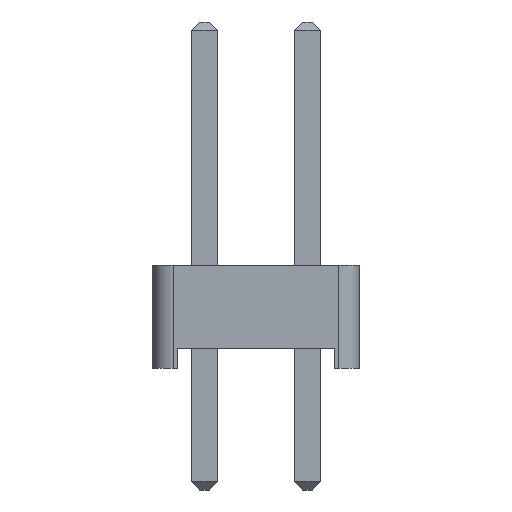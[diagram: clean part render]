
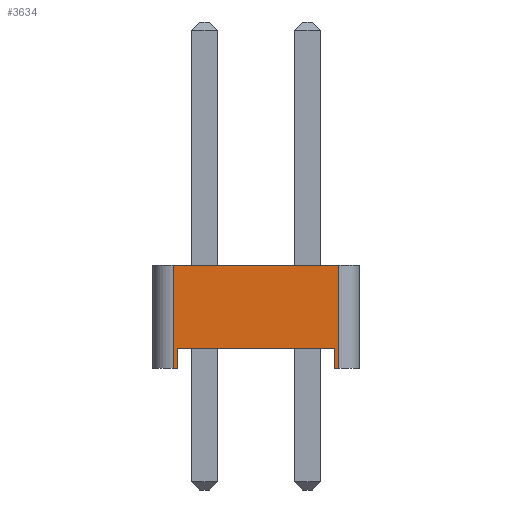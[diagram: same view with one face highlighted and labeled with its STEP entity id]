
A CAD part, left-side view. The second image highlights one B-rep face of the part: STEP entity #3634.
In plain terms, the highlighted planar face has unit normal (-1, 0, 0).
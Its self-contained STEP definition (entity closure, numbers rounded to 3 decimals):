
#3374 = VERTEX_POINT('',#3375);
#3375 = CARTESIAN_POINT('',(-1.27,2.04,0.));
#3383 = PLANE('',#3384);
#3384 = AXIS2_PLACEMENT_3D('',#3385,#3386,#3387);
#3385 = CARTESIAN_POINT('',(0.,0.,0.));
#3386 = DIRECTION('',(-0.,-0.,-1.));
#3387 = DIRECTION('',(-1.,0.,0.));
#3399 = CYLINDRICAL_SURFACE('',#3400,0.5);
#3400 = AXIS2_PLACEMENT_3D('',#3401,#3402,#3403);
#3401 = CARTESIAN_POINT('',(-0.77,2.04,0.));
#3402 = DIRECTION('',(0.,0.,1.));
#3403 = DIRECTION('',(0.,1.,0.));
#3501 = VERTEX_POINT('',#3502);
#3502 = CARTESIAN_POINT('',(-1.27,1.94,0.));
#3516 = PLANE('',#3517);
#3517 = AXIS2_PLACEMENT_3D('',#3518,#3519,#3520);
#3518 = CARTESIAN_POINT('',(1.27,1.94,0.));
#3519 = DIRECTION('',(0.,-1.,0.));
#3520 = DIRECTION('',(-1.,0.,0.));
#3528 = EDGE_CURVE('',#3501,#3374,#3529,.T.);
#3529 = SURFACE_CURVE('',#3530,(#3534,#3541),.PCURVE_S1.);
#3530 = LINE('',#3531,#3532);
#3531 = CARTESIAN_POINT('',(-1.27,-2.54,0.));
#3532 = VECTOR('',#3533,1.);
#3533 = DIRECTION('',(0.,1.,0.));
#3534 = PCURVE('',#3383,#3535);
#3535 = DEFINITIONAL_REPRESENTATION('',(#3536),#3540);
#3536 = LINE('',#3537,#3538);
#3537 = CARTESIAN_POINT('',(1.27,-2.54));
#3538 = VECTOR('',#3539,1.);
#3539 = DIRECTION('',(0.,1.));
#3540 = ( GEOMETRIC_REPRESENTATION_CONTEXT(2) 
PARAMETRIC_REPRESENTATION_CONTEXT() REPRESENTATION_CONTEXT('2D SPACE',''
  ) );
#3541 = PCURVE('',#3542,#3547);
#3542 = PLANE('',#3543);
#3543 = AXIS2_PLACEMENT_3D('',#3544,#3545,#3546);
#3544 = CARTESIAN_POINT('',(-1.27,-2.54,0.));
#3545 = DIRECTION('',(-1.,0.,0.));
#3546 = DIRECTION('',(0.,1.,0.));
#3547 = DEFINITIONAL_REPRESENTATION('',(#3548),#3552);
#3548 = LINE('',#3549,#3550);
#3549 = CARTESIAN_POINT('',(0.,0.));
#3550 = VECTOR('',#3551,1.);
#3551 = DIRECTION('',(1.,0.));
#3552 = ( GEOMETRIC_REPRESENTATION_CONTEXT(2) 
PARAMETRIC_REPRESENTATION_CONTEXT() REPRESENTATION_CONTEXT('2D SPACE',''
  ) );
#3558 = EDGE_CURVE('',#3374,#3559,#3561,.T.);
#3559 = VERTEX_POINT('',#3560);
#3560 = CARTESIAN_POINT('',(-1.27,2.04,2.54));
#3561 = SURFACE_CURVE('',#3562,(#3566,#3573),.PCURVE_S1.);
#3562 = LINE('',#3563,#3564);
#3563 = CARTESIAN_POINT('',(-1.27,2.04,0.));
#3564 = VECTOR('',#3565,1.);
#3565 = DIRECTION('',(0.,0.,1.));
#3566 = PCURVE('',#3399,#3567);
#3567 = DEFINITIONAL_REPRESENTATION('',(#3568),#3572);
#3568 = LINE('',#3569,#3570);
#3569 = CARTESIAN_POINT('',(1.571,0.));
#3570 = VECTOR('',#3571,1.);
#3571 = DIRECTION('',(0.,1.));
#3572 = ( GEOMETRIC_REPRESENTATION_CONTEXT(2) 
PARAMETRIC_REPRESENTATION_CONTEXT() REPRESENTATION_CONTEXT('2D SPACE',''
  ) );
#3573 = PCURVE('',#3542,#3574);
#3574 = DEFINITIONAL_REPRESENTATION('',(#3575),#3579);
#3575 = LINE('',#3576,#3577);
#3576 = CARTESIAN_POINT('',(4.58,0.));
#3577 = VECTOR('',#3578,1.);
#3578 = DIRECTION('',(0.,-1.));
#3579 = ( GEOMETRIC_REPRESENTATION_CONTEXT(2) 
PARAMETRIC_REPRESENTATION_CONTEXT() REPRESENTATION_CONTEXT('2D SPACE',''
  ) );
#3598 = PLANE('',#3599);
#3599 = AXIS2_PLACEMENT_3D('',#3600,#3601,#3602);
#3600 = CARTESIAN_POINT('',(0.,0.,2.54));
#3601 = DIRECTION('',(-0.,-0.,-1.));
#3602 = DIRECTION('',(-1.,0.,0.));
#3634 = ADVANCED_FACE('',(#3635),#3542,.T.);
#3635 = FACE_BOUND('',#3636,.T.);
#3636 = EDGE_LOOP('',(#3637,#3667,#3695,#3716,#3717,#3718,#3741,#3769));
#3637 = ORIENTED_EDGE('',*,*,#3638,.F.);
#3638 = EDGE_CURVE('',#3639,#3641,#3643,.T.);
#3639 = VERTEX_POINT('',#3640);
#3640 = CARTESIAN_POINT('',(-1.27,-2.04,0.));
#3641 = VERTEX_POINT('',#3642);
#3642 = CARTESIAN_POINT('',(-1.27,-1.94,0.));
#3643 = SURFACE_CURVE('',#3644,(#3648,#3655),.PCURVE_S1.);
#3644 = LINE('',#3645,#3646);
#3645 = CARTESIAN_POINT('',(-1.27,-2.54,0.));
#3646 = VECTOR('',#3647,1.);
#3647 = DIRECTION('',(0.,1.,0.));
#3648 = PCURVE('',#3542,#3649);
#3649 = DEFINITIONAL_REPRESENTATION('',(#3650),#3654);
#3650 = LINE('',#3651,#3652);
#3651 = CARTESIAN_POINT('',(0.,0.));
#3652 = VECTOR('',#3653,1.);
#3653 = DIRECTION('',(1.,0.));
#3654 = ( GEOMETRIC_REPRESENTATION_CONTEXT(2) 
PARAMETRIC_REPRESENTATION_CONTEXT() REPRESENTATION_CONTEXT('2D SPACE',''
  ) );
#3655 = PCURVE('',#3656,#3661);
#3656 = PLANE('',#3657);
#3657 = AXIS2_PLACEMENT_3D('',#3658,#3659,#3660);
#3658 = CARTESIAN_POINT('',(0.,0.,0.));
#3659 = DIRECTION('',(-0.,-0.,-1.));
#3660 = DIRECTION('',(-1.,0.,0.));
#3661 = DEFINITIONAL_REPRESENTATION('',(#3662),#3666);
#3662 = LINE('',#3663,#3664);
#3663 = CARTESIAN_POINT('',(1.27,-2.54));
#3664 = VECTOR('',#3665,1.);
#3665 = DIRECTION('',(0.,1.));
#3666 = ( GEOMETRIC_REPRESENTATION_CONTEXT(2) 
PARAMETRIC_REPRESENTATION_CONTEXT() REPRESENTATION_CONTEXT('2D SPACE',''
  ) );
#3667 = ORIENTED_EDGE('',*,*,#3668,.T.);
#3668 = EDGE_CURVE('',#3639,#3669,#3671,.T.);
#3669 = VERTEX_POINT('',#3670);
#3670 = CARTESIAN_POINT('',(-1.27,-2.04,2.54));
#3671 = SURFACE_CURVE('',#3672,(#3676,#3683),.PCURVE_S1.);
#3672 = LINE('',#3673,#3674);
#3673 = CARTESIAN_POINT('',(-1.27,-2.04,0.));
#3674 = VECTOR('',#3675,1.);
#3675 = DIRECTION('',(0.,0.,1.));
#3676 = PCURVE('',#3542,#3677);
#3677 = DEFINITIONAL_REPRESENTATION('',(#3678),#3682);
#3678 = LINE('',#3679,#3680);
#3679 = CARTESIAN_POINT('',(0.5,0.));
#3680 = VECTOR('',#3681,1.);
#3681 = DIRECTION('',(0.,-1.));
#3682 = ( GEOMETRIC_REPRESENTATION_CONTEXT(2) 
PARAMETRIC_REPRESENTATION_CONTEXT() REPRESENTATION_CONTEXT('2D SPACE',''
  ) );
#3683 = PCURVE('',#3684,#3689);
#3684 = CYLINDRICAL_SURFACE('',#3685,0.5);
#3685 = AXIS2_PLACEMENT_3D('',#3686,#3687,#3688);
#3686 = CARTESIAN_POINT('',(-0.77,-2.04,0.));
#3687 = DIRECTION('',(0.,0.,1.));
#3688 = DIRECTION('',(0.,-1.,0.));
#3689 = DEFINITIONAL_REPRESENTATION('',(#3690),#3694);
#3690 = LINE('',#3691,#3692);
#3691 = CARTESIAN_POINT('',(-1.571,0.));
#3692 = VECTOR('',#3693,1.);
#3693 = DIRECTION('',(-0.,1.));
#3694 = ( GEOMETRIC_REPRESENTATION_CONTEXT(2) 
PARAMETRIC_REPRESENTATION_CONTEXT() REPRESENTATION_CONTEXT('2D SPACE',''
  ) );
#3695 = ORIENTED_EDGE('',*,*,#3696,.T.);
#3696 = EDGE_CURVE('',#3669,#3559,#3697,.T.);
#3697 = SURFACE_CURVE('',#3698,(#3702,#3709),.PCURVE_S1.);
#3698 = LINE('',#3699,#3700);
#3699 = CARTESIAN_POINT('',(-1.27,-2.54,2.54));
#3700 = VECTOR('',#3701,1.);
#3701 = DIRECTION('',(0.,1.,0.));
#3702 = PCURVE('',#3542,#3703);
#3703 = DEFINITIONAL_REPRESENTATION('',(#3704),#3708);
#3704 = LINE('',#3705,#3706);
#3705 = CARTESIAN_POINT('',(0.,-2.54));
#3706 = VECTOR('',#3707,1.);
#3707 = DIRECTION('',(1.,0.));
#3708 = ( GEOMETRIC_REPRESENTATION_CONTEXT(2) 
PARAMETRIC_REPRESENTATION_CONTEXT() REPRESENTATION_CONTEXT('2D SPACE',''
  ) );
#3709 = PCURVE('',#3598,#3710);
#3710 = DEFINITIONAL_REPRESENTATION('',(#3711),#3715);
#3711 = LINE('',#3712,#3713);
#3712 = CARTESIAN_POINT('',(1.27,-2.54));
#3713 = VECTOR('',#3714,1.);
#3714 = DIRECTION('',(0.,1.));
#3715 = ( GEOMETRIC_REPRESENTATION_CONTEXT(2) 
PARAMETRIC_REPRESENTATION_CONTEXT() REPRESENTATION_CONTEXT('2D SPACE',''
  ) );
#3716 = ORIENTED_EDGE('',*,*,#3558,.F.);
#3717 = ORIENTED_EDGE('',*,*,#3528,.F.);
#3718 = ORIENTED_EDGE('',*,*,#3719,.T.);
#3719 = EDGE_CURVE('',#3501,#3720,#3722,.T.);
#3720 = VERTEX_POINT('',#3721);
#3721 = CARTESIAN_POINT('',(-1.27,1.94,0.5));
#3722 = SURFACE_CURVE('',#3723,(#3727,#3734),.PCURVE_S1.);
#3723 = LINE('',#3724,#3725);
#3724 = CARTESIAN_POINT('',(-1.27,1.94,0.));
#3725 = VECTOR('',#3726,1.);
#3726 = DIRECTION('',(0.,0.,1.));
#3727 = PCURVE('',#3542,#3728);
#3728 = DEFINITIONAL_REPRESENTATION('',(#3729),#3733);
#3729 = LINE('',#3730,#3731);
#3730 = CARTESIAN_POINT('',(4.48,0.));
#3731 = VECTOR('',#3732,1.);
#3732 = DIRECTION('',(0.,-1.));
#3733 = ( GEOMETRIC_REPRESENTATION_CONTEXT(2) 
PARAMETRIC_REPRESENTATION_CONTEXT() REPRESENTATION_CONTEXT('2D SPACE',''
  ) );
#3734 = PCURVE('',#3516,#3735);
#3735 = DEFINITIONAL_REPRESENTATION('',(#3736),#3740);
#3736 = LINE('',#3737,#3738);
#3737 = CARTESIAN_POINT('',(2.54,0.));
#3738 = VECTOR('',#3739,1.);
#3739 = DIRECTION('',(0.,-1.));
#3740 = ( GEOMETRIC_REPRESENTATION_CONTEXT(2) 
PARAMETRIC_REPRESENTATION_CONTEXT() REPRESENTATION_CONTEXT('2D SPACE',''
  ) );
#3741 = ORIENTED_EDGE('',*,*,#3742,.T.);
#3742 = EDGE_CURVE('',#3720,#3743,#3745,.T.);
#3743 = VERTEX_POINT('',#3744);
#3744 = CARTESIAN_POINT('',(-1.27,-1.94,0.5));
#3745 = SURFACE_CURVE('',#3746,(#3750,#3757),.PCURVE_S1.);
#3746 = LINE('',#3747,#3748);
#3747 = CARTESIAN_POINT('',(-1.27,1.94,0.5));
#3748 = VECTOR('',#3749,1.);
#3749 = DIRECTION('',(0.,-1.,0.));
#3750 = PCURVE('',#3542,#3751);
#3751 = DEFINITIONAL_REPRESENTATION('',(#3752),#3756);
#3752 = LINE('',#3753,#3754);
#3753 = CARTESIAN_POINT('',(4.48,-0.5));
#3754 = VECTOR('',#3755,1.);
#3755 = DIRECTION('',(-1.,0.));
#3756 = ( GEOMETRIC_REPRESENTATION_CONTEXT(2) 
PARAMETRIC_REPRESENTATION_CONTEXT() REPRESENTATION_CONTEXT('2D SPACE',''
  ) );
#3757 = PCURVE('',#3758,#3763);
#3758 = PLANE('',#3759);
#3759 = AXIS2_PLACEMENT_3D('',#3760,#3761,#3762);
#3760 = CARTESIAN_POINT('',(0.,0.,0.5));
#3761 = DIRECTION('',(0.,0.,1.));
#3762 = DIRECTION('',(1.,0.,0.));
#3763 = DEFINITIONAL_REPRESENTATION('',(#3764),#3768);
#3764 = LINE('',#3765,#3766);
#3765 = CARTESIAN_POINT('',(-1.27,1.94));
#3766 = VECTOR('',#3767,1.);
#3767 = DIRECTION('',(0.,-1.));
#3768 = ( GEOMETRIC_REPRESENTATION_CONTEXT(2) 
PARAMETRIC_REPRESENTATION_CONTEXT() REPRESENTATION_CONTEXT('2D SPACE',''
  ) );
#3769 = ORIENTED_EDGE('',*,*,#3770,.F.);
#3770 = EDGE_CURVE('',#3641,#3743,#3771,.T.);
#3771 = SURFACE_CURVE('',#3772,(#3776,#3783),.PCURVE_S1.);
#3772 = LINE('',#3773,#3774);
#3773 = CARTESIAN_POINT('',(-1.27,-1.94,0.));
#3774 = VECTOR('',#3775,1.);
#3775 = DIRECTION('',(0.,0.,1.));
#3776 = PCURVE('',#3542,#3777);
#3777 = DEFINITIONAL_REPRESENTATION('',(#3778),#3782);
#3778 = LINE('',#3779,#3780);
#3779 = CARTESIAN_POINT('',(0.6,0.));
#3780 = VECTOR('',#3781,1.);
#3781 = DIRECTION('',(0.,-1.));
#3782 = ( GEOMETRIC_REPRESENTATION_CONTEXT(2) 
PARAMETRIC_REPRESENTATION_CONTEXT() REPRESENTATION_CONTEXT('2D SPACE',''
  ) );
#3783 = PCURVE('',#3784,#3789);
#3784 = PLANE('',#3785);
#3785 = AXIS2_PLACEMENT_3D('',#3786,#3787,#3788);
#3786 = CARTESIAN_POINT('',(-1.27,-1.94,0.));
#3787 = DIRECTION('',(0.,1.,0.));
#3788 = DIRECTION('',(1.,0.,0.));
#3789 = DEFINITIONAL_REPRESENTATION('',(#3790),#3794);
#3790 = LINE('',#3791,#3792);
#3791 = CARTESIAN_POINT('',(0.,0.));
#3792 = VECTOR('',#3793,1.);
#3793 = DIRECTION('',(0.,-1.));
#3794 = ( GEOMETRIC_REPRESENTATION_CONTEXT(2) 
PARAMETRIC_REPRESENTATION_CONTEXT() REPRESENTATION_CONTEXT('2D SPACE',''
  ) );
